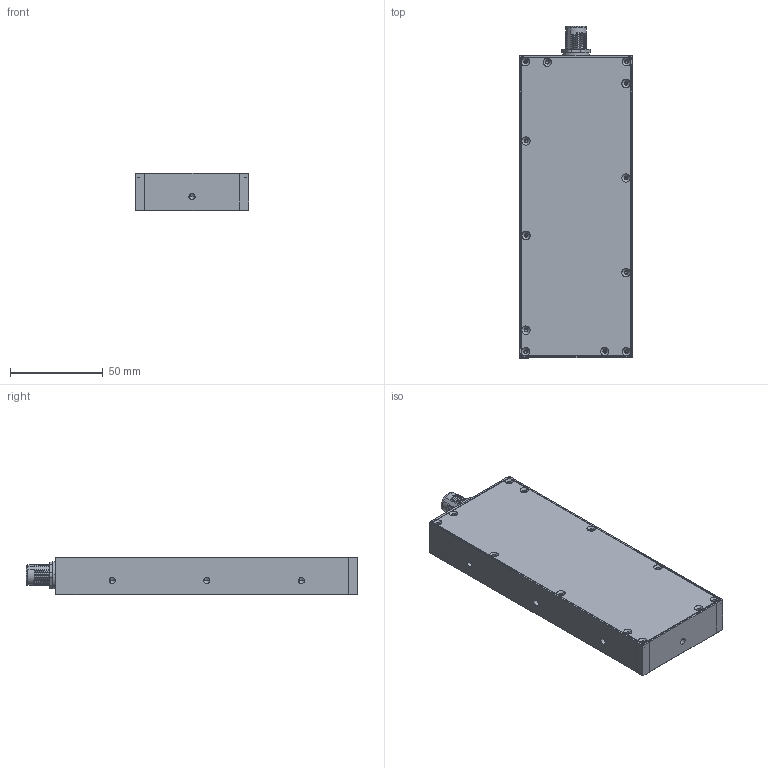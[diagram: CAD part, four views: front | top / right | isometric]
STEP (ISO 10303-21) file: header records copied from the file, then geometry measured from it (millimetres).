
FILE_DESCRIPTION (( 'STEP AP203' ), '1' );
FILE_NAME ('SBACK II 150x50.STEP', '2017-03-14T16:20:26', ( '' ), ( '' ), 'SwSTEP 2.0', 'SolidWorks 2014', '' );
FILE_SCHEMA (( 'CONFIG_CONTROL_DESIGN' ));
Length unit declared in the file: millimetre
Products named in the file (10): EC-03-051-100-PIE-DEV_D‚faut; 005993_DＧaut; EC-03-051-105_50x150; connecteur M12_D‚faut; Joint_DＧaut; Ecrou_DＧaut; EC-03-051-116_D‚faut; SBACK II 150x50; EC-03-051-312_D‚faut; EC-03-051-102-PE-DEV_D‚faut
Assembly tree (11 placements, depth 2):
  SBACK II 150x50
    EC-03-051-116_D‚faut
    EC-03-051-312_D‚faut  x2
    EC-03-051-102-PE-DEV_D‚faut  x2
    EC-03-051-100-PIE-DEV_D‚faut
    005993_DＧaut
    EC-03-051-105_50x150
    connecteur M12_D‚faut
    Joint_DＧaut
    Ecrou_DＧaut
Bounding box: 61 x 179 x 20 mm (x, y, z)
Volume: 81332.6 mm3; surface area: 65145.1 mm2
Topology: 11 solids, 11 shells, 518 faces, 1350 edges, 825 vertices
Faces by surface type: cylinder 192, plane 160, cone 110, bspline 48, sphere 8
Entity records: 32219 total; most frequent: CARTESIAN_POINT 21203, ORIENTED_EDGE 2144, DIRECTION 1979, EDGE_CURVE 1072, AXIS2_PLACEMENT_3D 717, VERTEX_POINT 689, VECTOR 545, LINE 545
